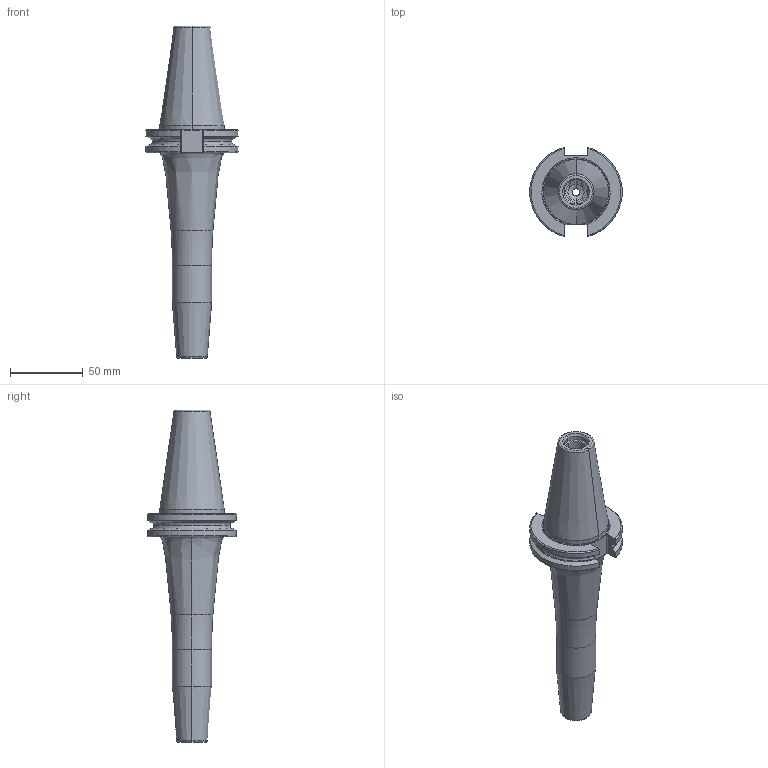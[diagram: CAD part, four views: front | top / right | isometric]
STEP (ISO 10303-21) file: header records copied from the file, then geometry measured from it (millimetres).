
FILE_DESCRIPTION (( 'STEP AP214' ), '1' );
FILE_NAME ('RC4SF0312630.STEP', '2019-02-14T15:07:29', ( '' ), ( '' ), 'SwSTEP 2.0', 'SolidWorks 2019', '' );
FILE_SCHEMA (( 'AUTOMOTIVE_DESIGN' ));
Length unit declared in the file: inch
Products named in the file (2): RC4SF0312630
Bounding box: 63.26 x 61.35 x 228.25 mm (x, y, z)
Volume: 182731.9 mm3; surface area: 36630.6 mm2
Topology: 1 solids, 1 shells, 99 faces, 246 edges, 149 vertices
Faces by surface type: cylinder 30, cone 27, torus 20, plane 20, bspline 2
Entity records: 4469 total; most frequent: CARTESIAN_POINT 792, DIRECTION 507, ORIENTED_EDGE 488, EDGE_CURVE 244, AXIS2_PLACEMENT_3D 206, VERTEX_POINT 149, CIRCLE 107, EDGE_LOOP 103
